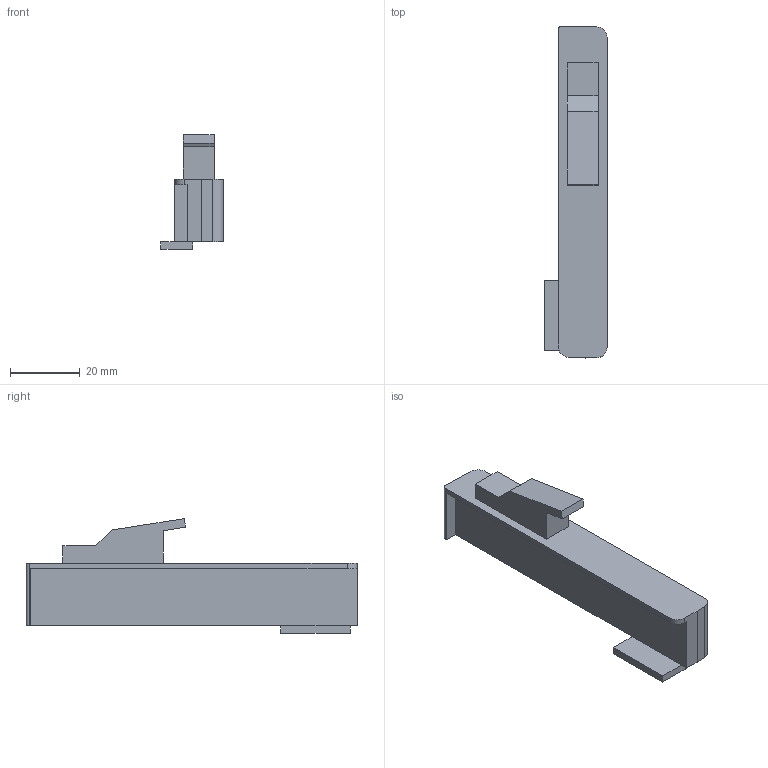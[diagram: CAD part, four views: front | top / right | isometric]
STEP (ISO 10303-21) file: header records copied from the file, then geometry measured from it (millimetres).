
FILE_DESCRIPTION (( 'STEP AP214' ), '1' );
FILE_NAME ('_Agantis Top Glashalter hi-re.step', '2010-07-14T13:28:31', ( 'grass' ), ( '' ), 'SwSTEP 2.0', 'SolidWorks 2010', '' );
FILE_SCHEMA (( 'AUTOMOTIVE_DESIGN' ));
Length unit declared in the file: millimetre
Products named in the file (1): _Agantis Top Glashalter hi-re
Bounding box: 17.9 x 95.4 x 33.02 mm (x, y, z)
Volume: 20850.8 mm3; surface area: 7746.1 mm2
Topology: 1 solids, 1 shells, 29 faces, 76 edges, 50 vertices
Faces by surface type: plane 25, cylinder 4
Entity records: 916 total; most frequent: CARTESIAN_POINT 156, ORIENTED_EDGE 152, DIRECTION 144, EDGE_CURVE 76, LINE 68, VECTOR 68, VERTEX_POINT 50, AXIS2_PLACEMENT_3D 38
